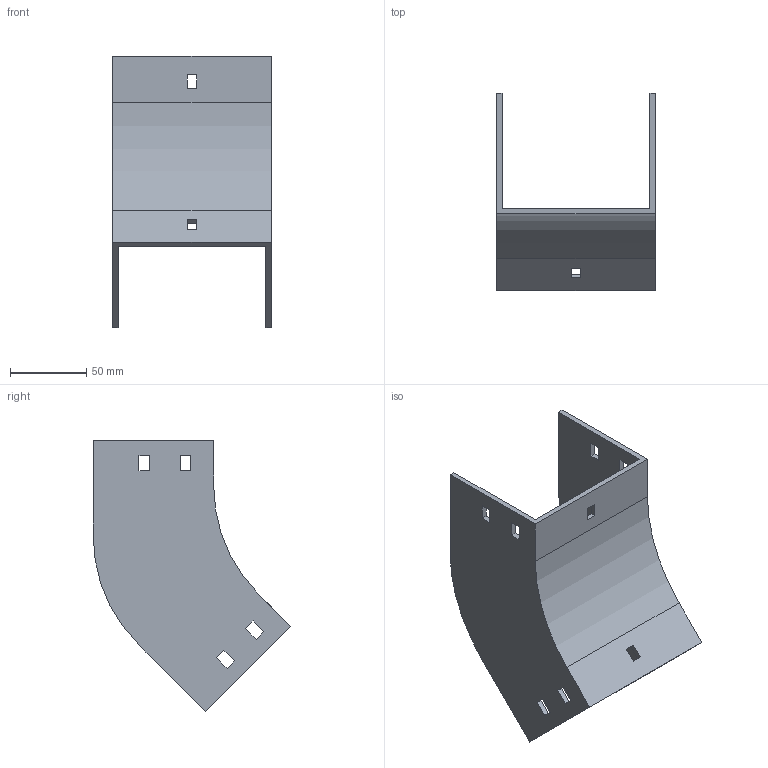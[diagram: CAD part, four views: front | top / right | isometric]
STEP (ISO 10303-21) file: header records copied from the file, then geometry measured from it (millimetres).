
FILE_DESCRIPTION (( 'STEP AP214' ), '1' );
FILE_NAME ('34F1C100.step', '2025-02-21T12:51:17', ( '' ), ( '' ), 'SwSTEP 2.0', 'SolidWorks 2023', '' );
FILE_SCHEMA (( 'AUTOMOTIVE_DESIGN' ));
Length unit declared in the file: millimetre
Products named in the file (1): 34F1C100
Bounding box: 104 x 129.5 x 177.79 mm (x, y, z)
Volume: 142219.2 mm3; surface area: 85640.4 mm2
Topology: 1 solids, 1 shells, 58 faces, 168 edges, 112 vertices
Faces by surface type: plane 54, cylinder 4
Entity records: 1943 total; most frequent: CARTESIAN_POINT 339, ORIENTED_EDGE 336, DIRECTION 294, EDGE_CURVE 168, VECTOR 160, LINE 160, VERTEX_POINT 112, EDGE_LOOP 78
